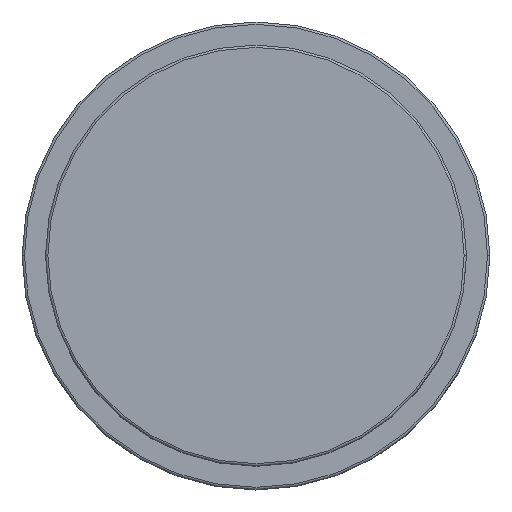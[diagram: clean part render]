
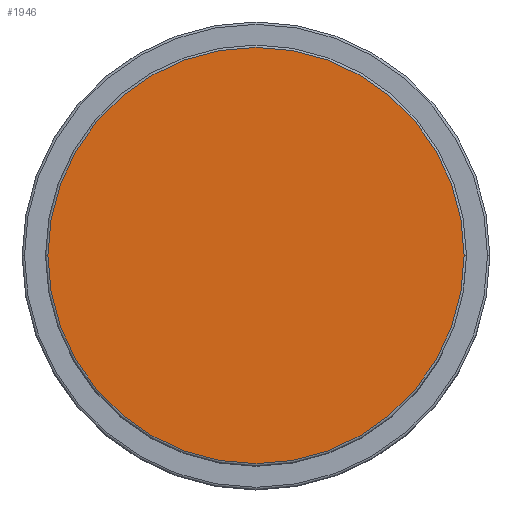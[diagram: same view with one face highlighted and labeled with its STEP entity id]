
A CAD part, top view. The second image highlights one B-rep face of the part: STEP entity #1946.
In plain terms, the highlighted planar face has unit normal (0, 0, 1).
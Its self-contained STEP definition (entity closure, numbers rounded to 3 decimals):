
#118 = AXIS2_PLACEMENT_3D ( 'NONE', #713, #125, #139 ) ;
#125 = DIRECTION ( 'NONE',  ( 0., 0., 1. ) ) ;
#139 = DIRECTION ( 'NONE',  ( 1., 0., 0. ) ) ;
#188 = AXIS2_PLACEMENT_3D ( 'NONE', #1891, #1421, #1586 ) ;
#585 = CARTESIAN_POINT ( 'NONE',  ( 44.5, 0., 57. ) ) ;
#713 = CARTESIAN_POINT ( 'NONE',  ( 0., 0., 57. ) ) ;
#718 = ORIENTED_EDGE ( 'NONE', *, *, #1827, .T. ) ;
#872 = DIRECTION ( 'NONE',  ( 1., 0., 0. ) ) ;
#947 = CIRCLE ( 'NONE', #1661, 44.5 ) ;
#1074 = FACE_OUTER_BOUND ( 'NONE', #1129, .T. ) ;
#1129 = EDGE_LOOP ( 'NONE', ( #1264, #718 ) ) ;
#1174 = CARTESIAN_POINT ( 'NONE',  ( -44.5, 0., 57. ) ) ;
#1215 = VERTEX_POINT ( 'NONE', #1174 ) ;
#1264 = ORIENTED_EDGE ( 'NONE', *, *, #1652, .T. ) ;
#1337 = DIRECTION ( 'NONE',  ( 0., 0., 1. ) ) ;
#1421 = DIRECTION ( 'NONE',  ( 0., 0., 1. ) ) ;
#1476 = CARTESIAN_POINT ( 'NONE',  ( 0., 0., 57. ) ) ;
#1586 = DIRECTION ( 'NONE',  ( 1., 0., 0. ) ) ;
#1652 = EDGE_CURVE ( 'NONE', #1871, #1215, #2007, .T. ) ;
#1654 = PLANE ( 'NONE',  #118 ) ;
#1661 = AXIS2_PLACEMENT_3D ( 'NONE', #1476, #1337, #872 ) ;
#1827 = EDGE_CURVE ( 'NONE', #1215, #1871, #947, .T. ) ;
#1871 = VERTEX_POINT ( 'NONE', #585 ) ;
#1891 = CARTESIAN_POINT ( 'NONE',  ( 0., 0., 57. ) ) ;
#1946 = ADVANCED_FACE ( 'NONE', ( #1074 ), #1654, .T. ) ;
#2007 = CIRCLE ( 'NONE', #188, 44.5 ) ;
